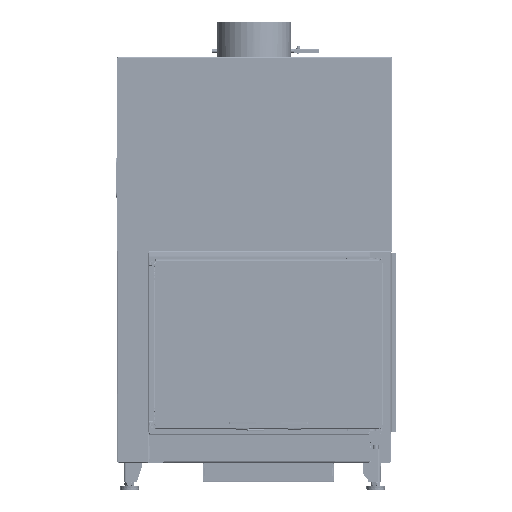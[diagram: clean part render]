
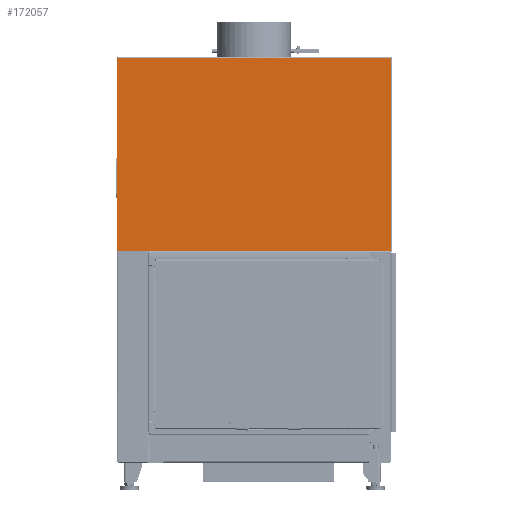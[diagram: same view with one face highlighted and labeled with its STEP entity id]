
A CAD part, front view. The second image highlights one B-rep face of the part: STEP entity #172057.
In plain terms, the highlighted planar face has unit normal (0, -1, 0).
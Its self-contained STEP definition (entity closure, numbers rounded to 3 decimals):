
#14250=FACE_OUTER_BOUND('',#23726,.T.);
#23726=EDGE_LOOP('',(#145463,#145464,#145465,#145466,#145467,#145468,#145469,
#145470,#145471,#145472,#145473));
#30988=CIRCLE('',#187957,3.);
#30989=CIRCLE('',#187958,0.1);
#30990=CIRCLE('',#187959,3.);
#41130=LINE('',#269242,#56666);
#46008=LINE('',#288396,#61544);
#46009=LINE('',#288398,#61545);
#46010=LINE('',#288401,#61546);
#46011=LINE('',#288403,#61547);
#46012=LINE('',#288405,#61548);
#46013=LINE('',#288407,#61549);
#46014=LINE('',#288410,#61550);
#56666=VECTOR('',#218255,10.);
#61544=VECTOR('',#233115,10.);
#61545=VECTOR('',#233116,10.);
#61546=VECTOR('',#233119,10.);
#61547=VECTOR('',#233120,10.);
#61548=VECTOR('',#233121,10.);
#61549=VECTOR('',#233122,10.);
#61550=VECTOR('',#233125,10.);
#71758=VERTEX_POINT('',#269239);
#71759=VERTEX_POINT('',#269241);
#76504=VERTEX_POINT('',#288392);
#76505=VERTEX_POINT('',#288393);
#76506=VERTEX_POINT('',#288395);
#76507=VERTEX_POINT('',#288397);
#76508=VERTEX_POINT('',#288400);
#76509=VERTEX_POINT('',#288402);
#76510=VERTEX_POINT('',#288404);
#76511=VERTEX_POINT('',#288406);
#76512=VERTEX_POINT('',#288408);
#92157=EDGE_CURVE('',#71759,#71758,#41130,.T.);
#99753=EDGE_CURVE('',#76504,#76505,#30988,.T.);
#99754=EDGE_CURVE('',#76504,#76506,#46008,.T.);
#99755=EDGE_CURVE('',#76506,#76507,#46009,.T.);
#99756=EDGE_CURVE('',#76507,#71759,#30989,.T.);
#99757=EDGE_CURVE('',#71758,#76508,#46010,.T.);
#99758=EDGE_CURVE('',#76508,#76509,#46011,.T.);
#99759=EDGE_CURVE('',#76509,#76510,#46012,.T.);
#99760=EDGE_CURVE('',#76510,#76511,#46013,.T.);
#99761=EDGE_CURVE('',#76512,#76511,#30990,.T.);
#99762=EDGE_CURVE('',#76512,#76505,#46014,.T.);
#145463=ORIENTED_EDGE('',*,*,#99753,.F.);
#145464=ORIENTED_EDGE('',*,*,#99754,.T.);
#145465=ORIENTED_EDGE('',*,*,#99755,.T.);
#145466=ORIENTED_EDGE('',*,*,#99756,.T.);
#145467=ORIENTED_EDGE('',*,*,#92157,.T.);
#145468=ORIENTED_EDGE('',*,*,#99757,.T.);
#145469=ORIENTED_EDGE('',*,*,#99758,.T.);
#145470=ORIENTED_EDGE('',*,*,#99759,.T.);
#145471=ORIENTED_EDGE('',*,*,#99760,.T.);
#145472=ORIENTED_EDGE('',*,*,#99761,.F.);
#145473=ORIENTED_EDGE('',*,*,#99762,.T.);
#154691=PLANE('',#187956);
#172057=ADVANCED_FACE('',(#14250),#154691,.T.);
#187956=AXIS2_PLACEMENT_3D('',#288391,#233111,#233112);
#187957=AXIS2_PLACEMENT_3D('',#288394,#233113,#233114);
#187958=AXIS2_PLACEMENT_3D('',#288399,#233117,#233118);
#187959=AXIS2_PLACEMENT_3D('',#288409,#233123,#233124);
#218255=DIRECTION('',(0.,0.,-1.));
#233111=DIRECTION('center_axis',(0.,-1.,
0.));
#233112=DIRECTION('ref_axis',(1.,0.,0.));
#233113=DIRECTION('center_axis',(0.,1.,
0.));
#233114=DIRECTION('ref_axis',(-0.707,0.,-0.707));
#233115=DIRECTION('',(1.,0.,0.));
#233116=DIRECTION('',(0.,0.,1.));
#233117=DIRECTION('center_axis',(0.,1.,
0.));
#233118=DIRECTION('ref_axis',(1.,0.,0.));
#233119=DIRECTION('',(1.,0.,0.));
#233120=DIRECTION('',(0.,0.,1.));
#233121=DIRECTION('',(-1.,0.,0.));
#233122=DIRECTION('',(-1.,0.,0.));
#233123=DIRECTION('center_axis',(0.,1.,
0.));
#233124=DIRECTION('ref_axis',(-0.707,0.,0.707));
#233125=DIRECTION('',(0.,0.,-1.));
#269239=CARTESIAN_POINT('',(87.4,-59.998,582.265));
#269241=CARTESIAN_POINT('',(87.4,-59.998,582.365));
#269242=CARTESIAN_POINT('',(87.4,-59.994,715.952));
#288391=CARTESIAN_POINT('Origin',(420.775,-59.99,849.64));
#288392=CARTESIAN_POINT('',(3.,-59.998,582.265));
#288393=CARTESIAN_POINT('',(0.,-59.998,585.265));
#288394=CARTESIAN_POINT('Origin',(3.,-59.998,585.265));
#288395=CARTESIAN_POINT('',(87.2,-59.998,582.265));
#288396=CARTESIAN_POINT('',(0.,-59.998,582.265));
#288397=CARTESIAN_POINT('',(87.2,-59.998,582.365));
#288398=CARTESIAN_POINT('',(87.2,-59.994,716.002));
#288399=CARTESIAN_POINT('Origin',(87.3,-59.998,582.365));
#288400=CARTESIAN_POINT('',(754.65,-59.998,582.265));
#288401=CARTESIAN_POINT('',(0.,-59.998,582.265));
#288402=CARTESIAN_POINT('',(754.65,-59.982,1114.265));
#288403=CARTESIAN_POINT('',(754.65,-59.994,715.952));
#288404=CARTESIAN_POINT('',(84.15,-59.982,1114.265));
#288405=CARTESIAN_POINT('',(589.088,-59.982,1114.265));
#288406=CARTESIAN_POINT('',(3.,-59.982,1114.265));
#288407=CARTESIAN_POINT('',(84.15,-59.982,1114.265));
#288408=CARTESIAN_POINT('',(0.,-59.982,1111.265));
#288409=CARTESIAN_POINT('Origin',(3.,-59.982,1111.265));
#288410=CARTESIAN_POINT('',(0.,-59.982,1114.265));
